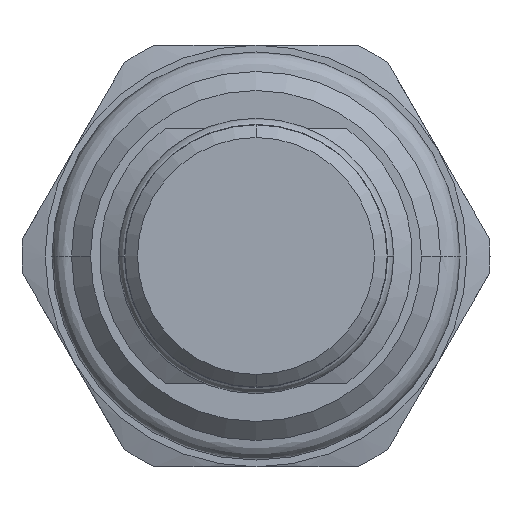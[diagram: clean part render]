
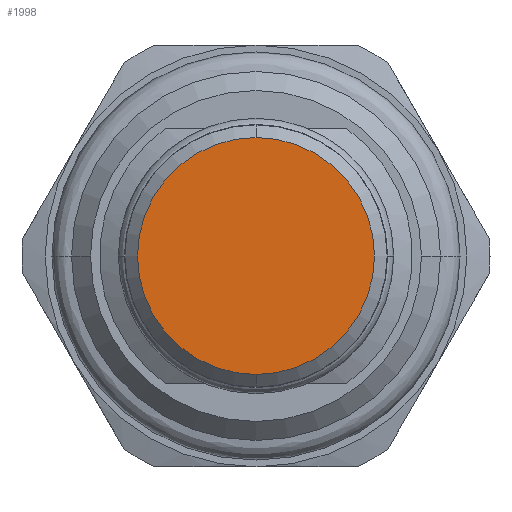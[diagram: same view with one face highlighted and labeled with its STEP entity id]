
A CAD part, front view. The second image highlights one B-rep face of the part: STEP entity #1998.
In plain terms, the highlighted planar face has unit normal (0, -1, 0).
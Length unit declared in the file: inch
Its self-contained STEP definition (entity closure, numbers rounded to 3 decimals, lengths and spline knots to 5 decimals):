
#904=CARTESIAN_POINT('',(0.,-1.253,0.));
#905=DIRECTION('',(0.,1.,0.));
#906=DIRECTION('',(0.,0.,1.));
#907=AXIS2_PLACEMENT_3D('',#904,#905,#906);
#914=CARTESIAN_POINT('',(0.,-1.253,0.));
#915=DIRECTION('',(0.,1.,0.));
#916=DIRECTION('',(0.,0.,-1.));
#917=AXIS2_PLACEMENT_3D('',#914,#915,#916);
#975=CARTESIAN_POINT('',(0.,-1.253,0.281));
#976=CARTESIAN_POINT('',(0.,-1.253,-0.281));
#977=VERTEX_POINT('',#975);
#978=VERTEX_POINT('',#976);
#1988=CARTESIAN_POINT('',(0.,-1.253,0.));
#1989=DIRECTION('',(0.,-1.,0.));
#1990=DIRECTION('',(0.,0.,1.));
#1991=AXIS2_PLACEMENT_3D('',#1988,#1989,#1990);
#1992=PLANE('',#1991);
#1994=ORIENTED_EDGE('',*,*,#1993,.T.);
#1995=ORIENTED_EDGE('',*,*,#1978,.T.);
#1996=EDGE_LOOP('',(#1994,#1995));
#1997=FACE_OUTER_BOUND('',#1996,.F.);
#1998=ADVANCED_FACE('',(#1997),#1992,.T.);
#908=CIRCLE('',#907,0.281);
#918=CIRCLE('',#917,0.281);
#1978=EDGE_CURVE('',#977,#978,#908,.T.);
#1993=EDGE_CURVE('',#978,#977,#918,.T.);
